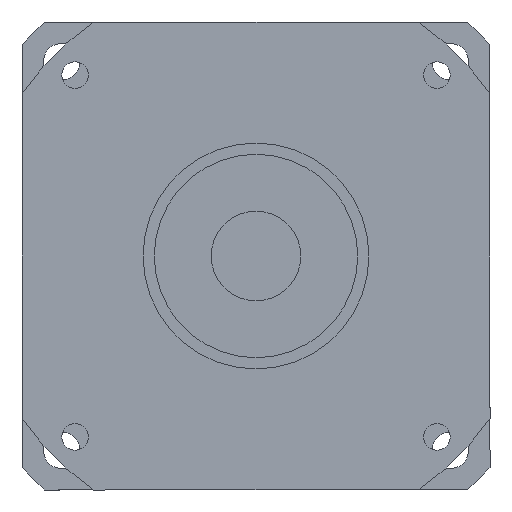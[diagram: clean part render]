
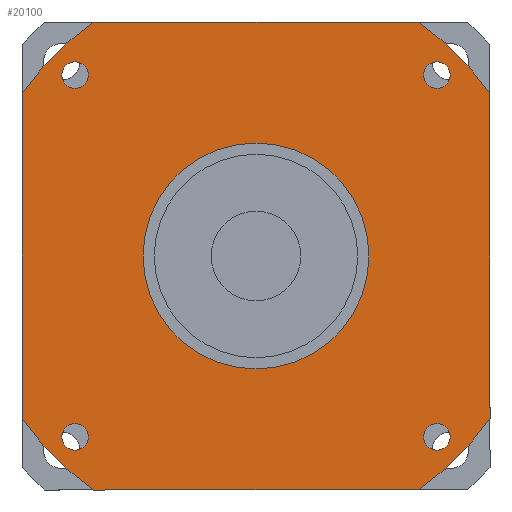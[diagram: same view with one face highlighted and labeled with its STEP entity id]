
A CAD part, left-side view. The second image highlights one B-rep face of the part: STEP entity #20100.
In plain terms, the highlighted planar face has unit normal (-1, 0, 0) as drawn and (0, 0, -1) by its records, which use the part's own axes.
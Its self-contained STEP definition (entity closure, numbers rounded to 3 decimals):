
#15990=CARTESIAN_POINT('',(39.922,57.5,-120.));
#16000=VERTEX_POINT('',#15990);
#16030=CARTESIAN_POINT('',(0.,0.,
-120.));
#16040=DIRECTION('',(0.,0.,1.));
#16050=DIRECTION('',(0.,-1.,0.));
#16060=AXIS2_PLACEMENT_3D('',#16030,#16040,#16050);
#16070=CIRCLE('',#16060,70.);
#16080=CARTESIAN_POINT('',(57.5,39.922,-120.));
#16090=VERTEX_POINT('',#16080);
#16100=EDGE_CURVE('',#16090,#16000,#16070,.T.);
#16350=CARTESIAN_POINT('',(0.,0.,
-120.));
#16360=DIRECTION('',(0.,0.,1.));
#16370=DIRECTION('',(0.,-1.,0.));
#16380=AXIS2_PLACEMENT_3D('',#16350,#16360,#16370);
#16390=CIRCLE('',#16380,27.76);
#16400=CARTESIAN_POINT('',(0.,-27.76,-120.));
#16410=VERTEX_POINT('',#16400);
#16420=CARTESIAN_POINT('',(27.76,0.,-120.));
#16430=VERTEX_POINT('',#16420);
#16440=EDGE_CURVE('',#16410,#16430,#16390,.T.);
#16570=CARTESIAN_POINT('',(-27.76,0.,-120.));
#16580=VERTEX_POINT('',#16570);
#16610=EDGE_CURVE('',#16580,#16410,#16390,.T.);
#18490=CARTESIAN_POINT('',(-41.199,-44.449,-120.));
#18500=VERTEX_POINT('',#18490);
#18580=CARTESIAN_POINT('',(-47.699,-44.449,-120.));
#18590=VERTEX_POINT('',#18580);
#18620=CARTESIAN_POINT('',(-44.449,-44.449,-120.));
#18630=DIRECTION('',(0.,0.,-1.));
#18640=DIRECTION('',(0.,-1.,0.));
#18650=AXIS2_PLACEMENT_3D('',#18620,#18630,#18640);
#18660=CIRCLE('',#18650,3.25);
#18670=CARTESIAN_POINT('',(-44.449,-47.699,-120.));
#18680=VERTEX_POINT('',#18670);
#18690=EDGE_CURVE('',#18680,#18590,#18660,.T.);
#18710=EDGE_CURVE('',#18500,#18680,#18660,.T.);
#18760=CARTESIAN_POINT('',(-57.5,57.5,-120.));
#18770=DIRECTION('',(0.,0.,1.));
#18780=DIRECTION('',(-1.,0.,0.));
#18790=AXIS2_PLACEMENT_3D('',#18760,#18770,#18780);
#18800=PLANE('',#18790);
#18810=CARTESIAN_POINT('',(44.449,-44.449,-120.));
#18820=DIRECTION('',(0.,0.,-1.));
#18830=DIRECTION('',(1.,0.,0.));
#18840=AXIS2_PLACEMENT_3D('',#18810,#18820,#18830);
#18850=CIRCLE('',#18840,3.25);
#18860=CARTESIAN_POINT('',(47.699,-44.449,-120.));
#18870=VERTEX_POINT('',#18860);
#18880=CARTESIAN_POINT('',(44.449,-47.699,-120.));
#18890=VERTEX_POINT('',#18880);
#18900=EDGE_CURVE('',#18870,#18890,#18850,.T.);
#18910=ORIENTED_EDGE('',*,*,#18900,.F.);
#18920=CARTESIAN_POINT('',(44.449,-41.199,-120.));
#18930=VERTEX_POINT('',#18920);
#18940=EDGE_CURVE('',#18890,#18930,#18850,.T.);
#18950=ORIENTED_EDGE('',*,*,#18940,.F.);
#18960=EDGE_CURVE('',#18930,#18870,#18850,.T.);
#18970=ORIENTED_EDGE('',*,*,#18960,.F.);
#18980=EDGE_LOOP('',(#18970,#18950,#18910));
#18990=FACE_BOUND('',#18980,.T.);
#19000=CARTESIAN_POINT('',(44.449,44.449,-120.));
#19010=DIRECTION('',(0.,0.,-1.));
#19020=DIRECTION('',(0.,1.,0.));
#19030=AXIS2_PLACEMENT_3D('',#19000,#19010,#19020);
#19040=CIRCLE('',#19030,3.25);
#19050=CARTESIAN_POINT('',(44.449,47.699,-120.));
#19060=VERTEX_POINT('',#19050);
#19070=CARTESIAN_POINT('',(47.699,44.449,-120.));
#19080=VERTEX_POINT('',#19070);
#19090=EDGE_CURVE('',#19060,#19080,#19040,.T.);
#19100=ORIENTED_EDGE('',*,*,#19090,.F.);
#19110=CARTESIAN_POINT('',(41.199,44.449,-120.));
#19120=VERTEX_POINT('',#19110);
#19130=EDGE_CURVE('',#19080,#19120,#19040,.T.);
#19140=ORIENTED_EDGE('',*,*,#19130,.F.);
#19150=EDGE_CURVE('',#19120,#19060,#19040,.T.);
#19160=ORIENTED_EDGE('',*,*,#19150,.F.);
#19170=EDGE_LOOP('',(#19160,#19140,#19100));
#19180=FACE_BOUND('',#19170,.T.);
#19190=CARTESIAN_POINT('',(-44.449,44.449,-120.));
#19200=DIRECTION('',(0.,0.,-1.));
#19210=DIRECTION('',(-1.,0.,0.));
#19220=AXIS2_PLACEMENT_3D('',#19190,#19200,#19210);
#19230=CIRCLE('',#19220,3.25);
#19240=CARTESIAN_POINT('',(-47.699,44.449,-120.));
#19250=VERTEX_POINT('',#19240);
#19260=CARTESIAN_POINT('',(-44.449,47.699,-120.));
#19270=VERTEX_POINT('',#19260);
#19280=EDGE_CURVE('',#19250,#19270,#19230,.T.);
#19290=ORIENTED_EDGE('',*,*,#19280,.F.);
#19300=CARTESIAN_POINT('',(-44.449,41.199,-120.));
#19310=VERTEX_POINT('',#19300);
#19320=EDGE_CURVE('',#19270,#19310,#19230,.T.);
#19330=ORIENTED_EDGE('',*,*,#19320,.F.);
#19340=EDGE_CURVE('',#19310,#19250,#19230,.T.);
#19350=ORIENTED_EDGE('',*,*,#19340,.F.);
#19360=EDGE_LOOP('',(#19350,#19330,#19290));
#19370=FACE_BOUND('',#19360,.T.);
#19380=ORIENTED_EDGE('',*,*,#18690,.F.);
#19390=EDGE_CURVE('',#18590,#18500,#18660,.T.);
#19400=ORIENTED_EDGE('',*,*,#19390,.F.);
#19410=ORIENTED_EDGE('',*,*,#18710,.F.);
#19420=EDGE_LOOP('',(#19410,#19400,#19380));
#19430=FACE_BOUND('',#19420,.T.);
#19440=CARTESIAN_POINT('',(0.,0.,
-120.));
#19450=DIRECTION('',(0.,0.,1.));
#19460=DIRECTION('',(0.,-1.,0.));
#19470=AXIS2_PLACEMENT_3D('',#19440,#19450,#19460);
#19480=CIRCLE('',#19470,70.);
#19490=CARTESIAN_POINT('',(-57.5,-39.922,-120.));
#19500=VERTEX_POINT('',#19490);
#19510=CARTESIAN_POINT('',(-39.922,-57.5,-120.));
#19520=VERTEX_POINT('',#19510);
#19530=EDGE_CURVE('',#19500,#19520,#19480,.T.);
#19540=ORIENTED_EDGE('',*,*,#19530,.F.);
#19550=CARTESIAN_POINT('',(-57.5,-57.5,-120.));
#19560=DIRECTION('',(1.,0.,0.));
#19570=VECTOR('',#19560,1000.);
#19580=LINE('',#19550,#19570);
#19590=CARTESIAN_POINT('',(39.922,-57.5,-120.));
#19600=VERTEX_POINT('',#19590);
#19610=EDGE_CURVE('',#19520,#19600,#19580,.T.);
#19620=ORIENTED_EDGE('',*,*,#19610,.F.);
#19630=CARTESIAN_POINT('',(0.,0.,
-120.));
#19640=DIRECTION('',(0.,0.,1.));
#19650=DIRECTION('',(0.,-1.,0.));
#19660=AXIS2_PLACEMENT_3D('',#19630,#19640,#19650);
#19670=CIRCLE('',#19660,70.);
#19680=CARTESIAN_POINT('',(57.5,-39.922,-120.));
#19690=VERTEX_POINT('',#19680);
#19700=EDGE_CURVE('',#19600,#19690,#19670,.T.);
#19710=ORIENTED_EDGE('',*,*,#19700,.F.);
#19720=CARTESIAN_POINT('',(57.5,-57.5,-120.));
#19730=DIRECTION('',(0.,1.,0.));
#19740=VECTOR('',#19730,1000.);
#19750=LINE('',#19720,#19740);
#19760=EDGE_CURVE('',#19690,#16090,#19750,.T.);
#19770=ORIENTED_EDGE('',*,*,#19760,.F.);
#19780=ORIENTED_EDGE('',*,*,#16100,.F.);
#19790=CARTESIAN_POINT('',(57.5,57.5,-120.));
#19800=DIRECTION('',(-1.,0.,0.));
#19810=VECTOR('',#19800,1000.);
#19820=LINE('',#19790,#19810);
#19830=CARTESIAN_POINT('',(-39.922,57.5,-120.));
#19840=VERTEX_POINT('',#19830);
#19850=EDGE_CURVE('',#16000,#19840,#19820,.T.);
#19860=ORIENTED_EDGE('',*,*,#19850,.F.);
#19870=CARTESIAN_POINT('',(0.,0.,
-120.));
#19880=DIRECTION('',(0.,0.,1.));
#19890=DIRECTION('',(0.,-1.,0.));
#19900=AXIS2_PLACEMENT_3D('',#19870,#19880,#19890);
#19910=CIRCLE('',#19900,70.);
#19920=CARTESIAN_POINT('',(-57.5,39.922,-120.));
#19930=VERTEX_POINT('',#19920);
#19940=EDGE_CURVE('',#19840,#19930,#19910,.T.);
#19950=ORIENTED_EDGE('',*,*,#19940,.F.);
#19960=CARTESIAN_POINT('',(-57.5,57.5,-120.));
#19970=DIRECTION('',(0.,-1.,0.));
#19980=VECTOR('',#19970,1000.);
#19990=LINE('',#19960,#19980);
#20000=EDGE_CURVE('',#19930,#19500,#19990,.T.);
#20010=ORIENTED_EDGE('',*,*,#20000,.F.);
#20020=EDGE_LOOP('',(#20010,#19950,#19860,#19780,#19770,#19710,#19620,
#19540));
#20030=FACE_OUTER_BOUND('',#20020,.T.);
#20040=EDGE_CURVE('',#16430,#16580,#16390,.T.);
#20050=ORIENTED_EDGE('',*,*,#20040,.T.);
#20060=ORIENTED_EDGE('',*,*,#16440,.T.);
#20070=ORIENTED_EDGE('',*,*,#16610,.T.);
#20080=EDGE_LOOP('',(#20070,#20060,#20050));
#20090=FACE_BOUND('',#20080,.T.);
#20100=ADVANCED_FACE('',(#18990,#19180,#19370,#19430,#20030,#20090),
#18800,.F.);
